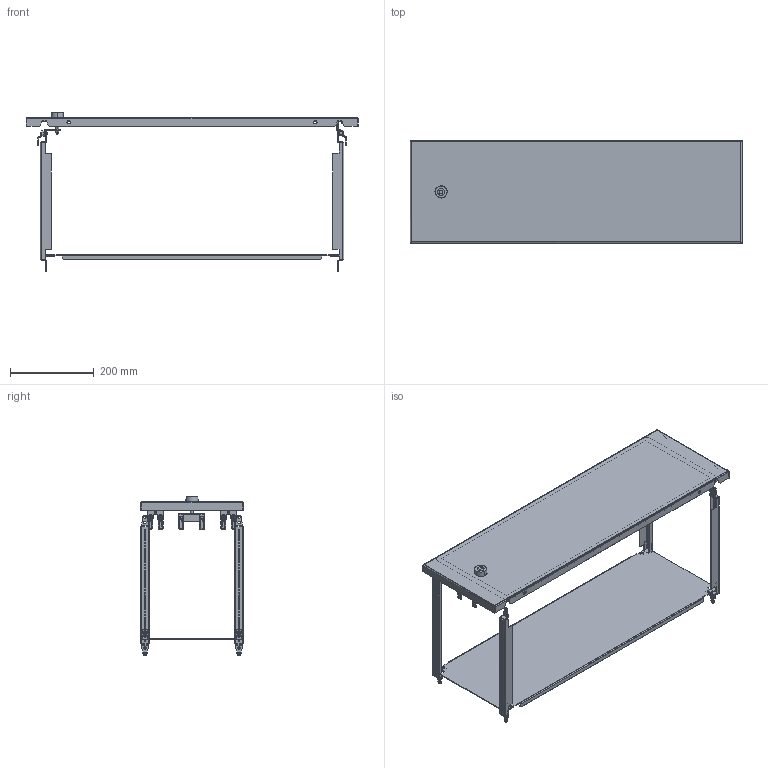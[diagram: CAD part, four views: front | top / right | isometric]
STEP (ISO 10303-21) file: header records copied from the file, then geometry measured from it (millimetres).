
FILE_DESCRIPTION(('CAx-IF Rec.Pracs.---Model Styling and Organization---1.2---2011-12-15','CAx-IF Rec.Pracs.---Geometric and Assembly Validation Properties---4.1---2014-06-16','CAx-IF Rec.Pracs.---PMI Polyline Presentation---2.0---2013-05-24'),'2;1');
FILE_NAME('R5PKEB0825.stp','2021-05-05T13:48:41+03:00',(''),(''),'STEP Interface 4.4 by CT CoreTechnologie','3D_Evolution4.4 by CT CoreTechnologie','');
FILE_SCHEMA(('AUTOMOTIVE_DESIGN { 1 0 10303 214 1 1 1 1 }'));
Length unit declared in the file: millimetre
Products named in the file (20): R5PKEB0825; RB.0329.00.00.0_-00; RB.0348.00.00.0_-00; R5CPMEM_R5CPMEM8250; AC00C745; M6 x 16-DIN 7991 ISR_thread; M6 x 16-DIN 7991 ISR_stright; RB.0687.00.00.1_-00; AC00C485; RB.0116.00.00.2_-00; MS737-1-1; MS737-1-1 Z_ ªàëâ; MS737-1-1 stop_fixed; RB.0572.00.00.1 ÑÁ_-10; AC00C266; RB.0572.00.01.1_-10; Ì6õ12-A5100231_straight; PF 7x14 R5PKEB_0250x0800; AC00C061_AC00C061; RB.0586.00.00.0_-05
Assembly tree (37 placements, depth 4):
  R5PKEB0825
    RB.0329.00.00.0_-00  x4
    RB.0348.00.00.0_-00  x4
    R5CPMEM_R5CPMEM8250
      AC00C745  x2
      M6 x 16-DIN 7991 ISR_thread  x3
      M6 x 16-DIN 7991 ISR_stright  x3
      RB.0687.00.00.1_-00
      AC00C485  x6
      RB.0116.00.00.2_-00  x2
      MS737-1-1
        MS737-1-1 Z_ ªàëâ
        MS737-1-1 stop_fixed
      RB.0572.00.00.1 ÑÁ_-10
        AC00C266  x2
        RB.0572.00.01.1_-10
        Ì6õ12-A5100231_straight
        PF 7x14 R5PKEB_0250x0800
        AC00C061_AC00C061
    RB.0586.00.00.0_-05
Bounding box: 794 x 245 x 379.4 mm (x, y, z)
Surface area: 1082667.8 mm2 (no closed solid volume)
Topology: 0 solids, 74 shells, 2030 faces, 5166 edges, 3266 vertices
Faces by surface type: cylinder 951, plane 805, bspline 274
Entity records: 29396 total; most frequent: CARTESIAN_POINT 8138, DIRECTION 4228, ORIENTED_EDGE 4156, EDGE_CURVE 2078, AXIS2_PLACEMENT_3D 1494, VERTEX_POINT 1330, VECTOR 1240, LINE 1240
